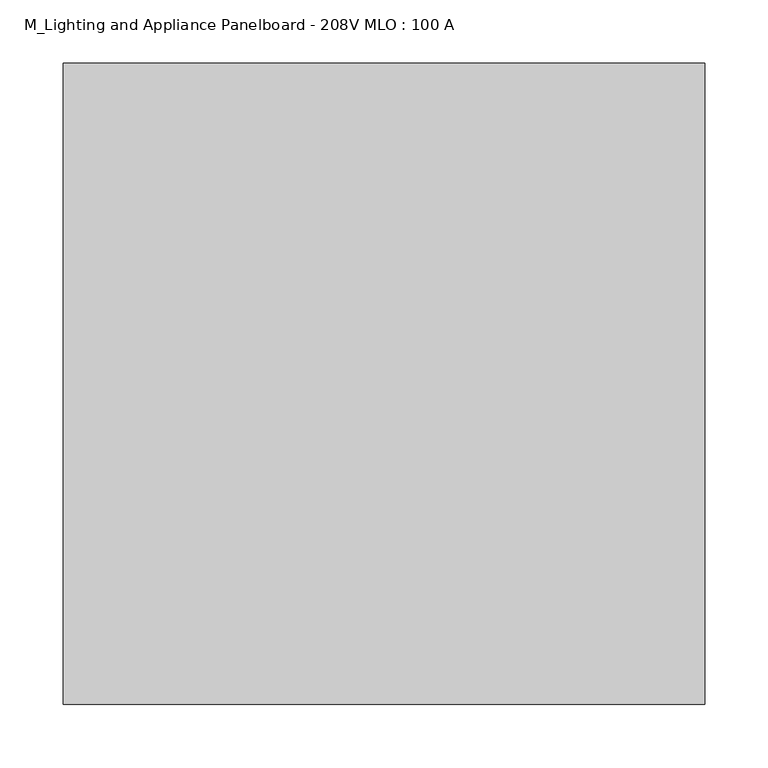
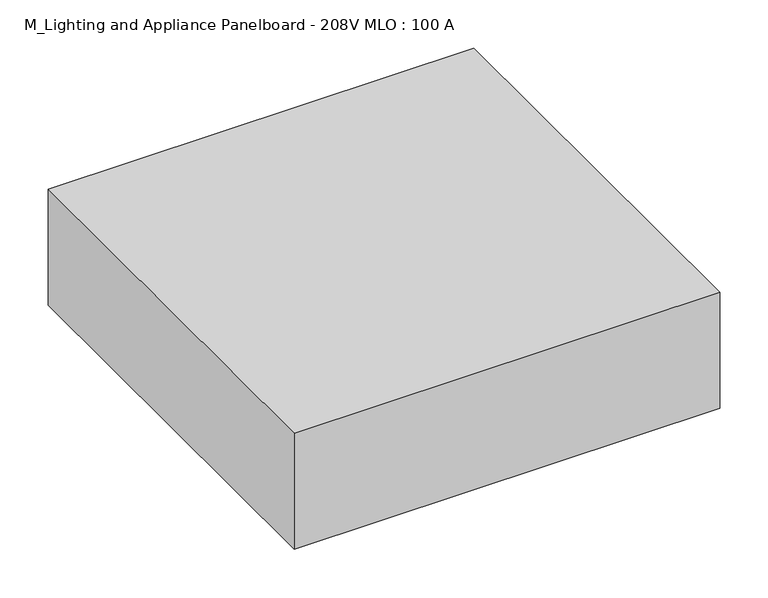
"""IFC4 building model written with IfcOpenShell, lengths in millimetres: proxy geometry, M_Lighting and Appliance Panelboard - 208V MLO : 100 A."""

from ifc_helpers import new_model, si_unit, frame, origin, place, context, project, spatial, polyline, outline, extrude, source, transform, mapped, element, save


def m_lighting_and_appliance_panelboard_208v_mlo_100_a_deb79597(model_context):
    return source(origin(), model_context, "Body", "SweptSolid", [
        extrude(outline(polyline([(254.0, -165.1), (254.0, -673.1), (-254.0, -673.1), (-254.0, -165.1), (254.0, -165.1)])), frame((0.0, 0.0, -146.1), z_axis=(0.0, 0.0, 1.0), x_axis=(1.0, 0.0, 0.0)), (0.0, 0.0, 1.0), 146.1),
    ])


if __name__ == "__main__":
    model = new_model("IFC4")
    model_context = context("Model", 3, world=origin())
    ifc_project = project(units=[si_unit("LENGTHUNIT", "METRE", prefix="MILLI")], contexts=[model_context])
    site = spatial("IfcSite", under=ifc_project)
    building = spatial("IfcBuilding", under=site)
    placement = place(None, origin())
    m_lighting_and_appliance_panelboard_208v_mlo_100_a_shape = m_lighting_and_appliance_panelboard_208v_mlo_100_a_deb79597(model_context)
    element("IfcBuildingElementProxy", 1, Name="M_Lighting and Appliance Panelboard - 208V MLO : 100 A", ObjectType="M_Lighting and Appliance Panelboard - 208V MLO : 100 A", at=placement, inside=building, context=model_context, shape_type="MappedRepresentation", body=[
        mapped(m_lighting_and_appliance_panelboard_208v_mlo_100_a_shape, transform((0.0, 0.0, 0.0), x_axis=(1.0, 0.0, 0.0), y_axis=(0.0, 1.0, 0.0), z_axis=(0.0, 0.0, 1.0))),
    ])
    save(model, "model.ifc")
